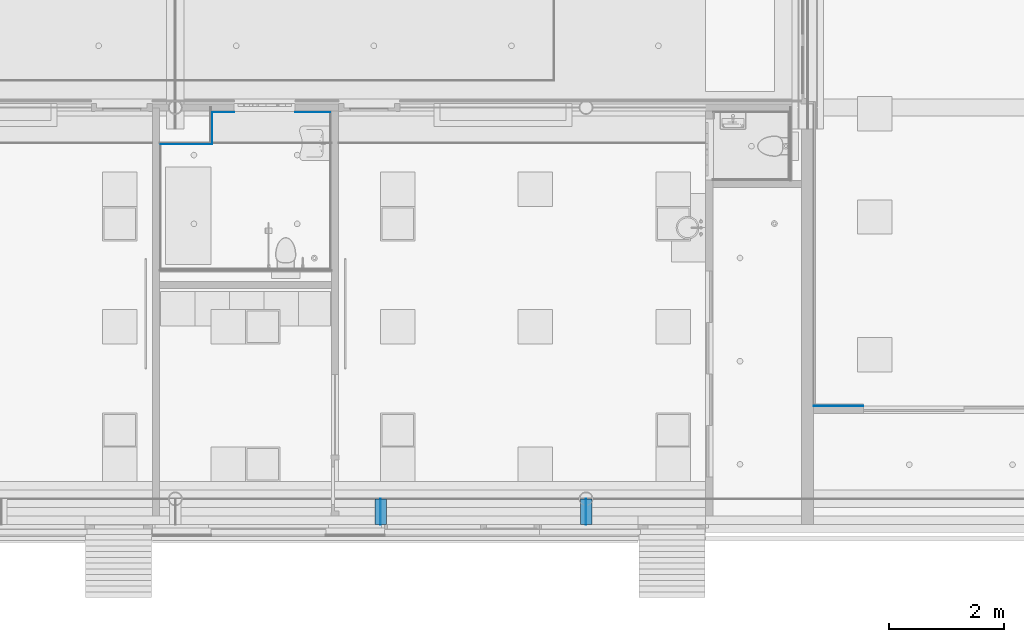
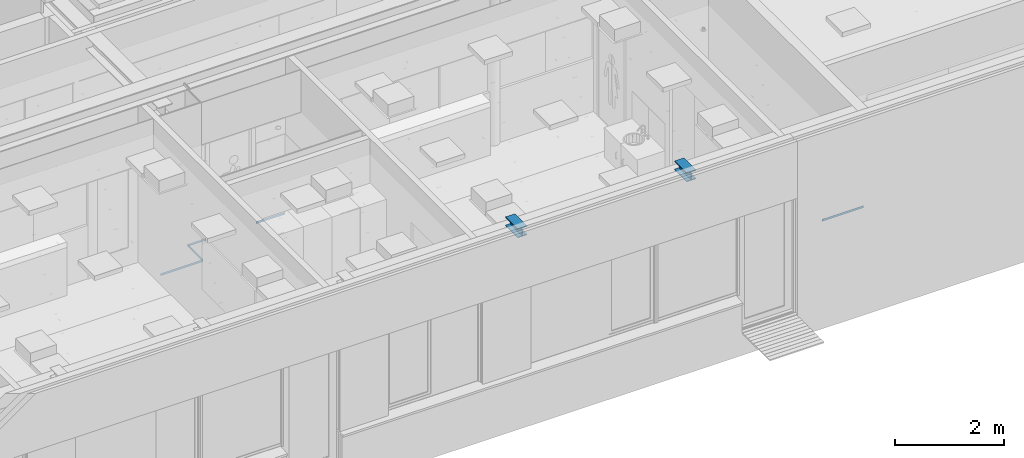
# One storey, part 128 of 347: 11 building element parts, 7 elements without a shape of their own.
"""IFC2X3 building model written with IfcOpenShell, lengths in millimetres."""

from ifc_helpers import new_model, entity, si_unit, converted_unit, derived_unit, money_unit, direction, frame, origin_with_axes, place, context, subcontext, project, spatial, faceted_brep, material, type_object, element, aggregate, save


model = new_model("IFC2X3")

# Units and contexts
model_context = context("Model", 3, precision=0.01, world=origin_with_axes(), true_north=direction((0.0, 1.0)))
plan_context = context("Plan", 3, precision=0.01, world=origin_with_axes(), true_north=direction((0.0, 1.0)))
body_context = subcontext(model_context, "Body", "Model", "MODEL_VIEW")
ifc_project = project(units=[si_unit("LENGTHUNIT", "METRE", prefix="MILLI"), si_unit("AREAUNIT", "SQUARE_METRE"), si_unit("VOLUMEUNIT", "CUBIC_METRE"), converted_unit("PLANEANGLEUNIT", "DEGREE", entity("IfcPlaneAngleMeasure", 0.0174532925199), si_unit("PLANEANGLEUNIT", "RADIAN"), dimensions=[0, 0, 0, 0, 0, 0, 0]), money_unit("EUR"), converted_unit("TIMEUNIT", "Year", entity("IfcTimeMeasure", 31556926.0), si_unit("TIMEUNIT", "SECOND"), dimensions=[0, 0, 1, 0, 0, 0, 0]), si_unit("MASSUNIT", "GRAM", prefix="KILO"), si_unit("THERMODYNAMICTEMPERATUREUNIT", "DEGREE_CELSIUS"), si_unit("LUMINOUSINTENSITYUNIT", "LUMEN"), si_unit("ENERGYUNIT", "JOULE", prefix="MEGA"), derived_unit("THERMALCONDUCTANCEUNIT", [(si_unit("POWERUNIT", "WATT"), 1), (si_unit("LENGTHUNIT", "METRE"), -1), (si_unit("THERMODYNAMICTEMPERATUREUNIT", "KELVIN"), -1)]), derived_unit("SPECIFICHEATCAPACITYUNIT", [(si_unit("ENERGYUNIT", "JOULE"), 1), (si_unit("MASSUNIT", "GRAM", prefix="KILO"), -1), (si_unit("THERMODYNAMICTEMPERATUREUNIT", "KELVIN"), -1)]), derived_unit("MASSDENSITYUNIT", [(si_unit("MASSUNIT", "GRAM", prefix="KILO"), 1), (si_unit("VOLUMEUNIT", "CUBIC_METRE"), -1)])], contexts=[model_context, plan_context])

# Site, building, storey
site_placement = place(None, origin_with_axes())
site = spatial("IfcSite", under=ifc_project, at=site_placement, Name="Site", CompositionType="ELEMENT")
building_placement = place(site_placement, origin_with_axes())
building = spatial("IfcBuilding", under=site, at=building_placement, Name="Naam gebouw", CompositionType="ELEMENT")
storey_placement = place(building_placement, origin_with_axes())
storey = spatial("IfcBuildingStorey", under=building, at=storey_placement, Name="begane grond", CompositionType="ELEMENT", Elevation=0.0)

# Beam, building element parts
beam_type = type_object("IfcBeamType", Name="28 HEB200 200 x 200", PredefinedType="BEAM")
beam_1_placement = place(storey_placement, frame((31737.5, 4850.0, 3560.0), z_axis=(0.0, 0.0, 1.0), x_axis=(1.0, 0.0, 0.0)))
beam_1 = element("IfcBeam", 1, at=beam_1_placement, inside=storey, type_object=beam_type, Name="28_Balk-x", ObjectType="BEAM")
ifc_material_1 = material(Name="Metaal - Staal C")
building_element_part_1_placement = place(beam_1_placement, origin_with_axes())
building_element_part_1 = element("IfcBuildingElementPart", 2, at=building_element_part_1_placement, material=ifc_material_1, Name="Metaal - Staal C", context=body_context, shape_type="Brep", body=[
    faceted_brep([(-100.0, 450.0, 185.0), (-4.5, 450.0, 185.0), (-4.5, 0.0, 185.0), (-100.0, 0.0, 185.0), (-100.0, 450.0, 200.0), (100.0, 450.0, 200.0), (100.0, 450.0, 185.0), (4.5, 450.0, 185.0), (4.5, 0.0, 185.0), (100.0, 0.0, 185.0), (100.0, 0.0, 200.0), (-100.0, 0.0, 200.0)], [[[0, 1, 2, 3]], [[0, 4, 5, 6, 7, 1]], [[1, 7, 8, 2]], [[3, 2, 8, 9, 10, 11]], [[4, 0, 3, 11]], [[5, 4, 11, 10]], [[6, 5, 10, 9]], [[7, 6, 9, 8]]]),
])
building_element_part_2_placement = place(beam_1_placement, origin_with_axes())
building_element_part_2 = element("IfcBuildingElementPart", 3, at=building_element_part_2_placement, material=ifc_material_1, Name="Metaal - Staal C", context=body_context, shape_type="Brep", body=[
    faceted_brep([(-100.0, 450.0, 15.0), (-100.0, 450.0, 0.0), (-100.0, 0.0, 0.0), (-100.0, 0.0, 15.0), (-4.5, 450.0, 15.0), (4.5, 450.0, 15.0), (100.0, 450.0, 15.0), (100.0, 450.0, 0.0), (100.0, 0.0, 0.0), (100.0, 0.0, 15.0), (4.5, 0.0, 15.0), (-4.5, 0.0, 15.0)], [[[0, 1, 2, 3]], [[0, 4, 5, 6, 7, 1]], [[1, 7, 8, 2]], [[3, 2, 8, 9, 10, 11]], [[4, 0, 3, 11]], [[5, 4, 11, 10]], [[6, 5, 10, 9]], [[7, 6, 9, 8]]]),
])
building_element_part_3_placement = place(beam_1_placement, origin_with_axes())
building_element_part_3 = element("IfcBuildingElementPart", 4, at=building_element_part_3_placement, material=ifc_material_1, Name="Metaal - Staal C", context=body_context, shape_type="Brep", body=[
    faceted_brep([(-4.5, 450.0, 15.0), (4.5, 450.0, 15.0), (4.5, 0.0, 15.0), (-4.5, 0.0, 15.0), (-4.5, 450.0, 185.0), (4.5, 450.0, 185.0), (4.5, 0.0, 185.0), (-4.5, 0.0, 185.0)], [[[0, 1, 2, 3]], [[0, 4, 5, 1]], [[1, 5, 6, 2]], [[3, 2, 6, 7]], [[4, 0, 3, 7]], [[5, 4, 7, 6]]]),
])
aggregate(beam_1, [building_element_part_1, building_element_part_2, building_element_part_3])

# Proxy, building element part
building_element_proxy_type_1 = type_object("IfcBuildingElementProxyType", Name="wandtegels 150x300 1800+ 10 x 1800", PredefinedType="NOTDEFINED")
proxy_1_placement = place(storey_placement, frame((25210.0000046, 11489.9999515, 0.0), z_axis=(0.0, 0.0, 1.0), x_axis=(-1.0, 0.0, 0.0)))
proxy_1 = element("IfcBuildingElementProxy", 5, at=proxy_1_placement, inside=storey, type_object=building_element_proxy_type_1, Name="42_58 wandtegels keramisch")
ifc_material_2 = material(Name="48 vloeivloer Bolidt")
building_element_part_4_placement = place(proxy_1_placement, origin_with_axes())
building_element_part_4 = element("IfcBuildingElementPart", 6, at=building_element_part_4_placement, material=ifc_material_2, Name="48 vloeivloer Bolidt", context=body_context, shape_type="Brep", body=[
    faceted_brep([(-7.99998912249, 10.0000069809, 49.9999904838), (-7.99998912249, 7.99998912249, 49.9999904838), (892.000016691, 7.99998912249, 49.9999904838), (892.000016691, 10.0000069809, 49.9999904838), (-7.99998912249, 7.99998912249, 0.0), (-7.99998912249, 10.0000069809, 0.0), (892.000016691, 7.99998912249, 0.0), (892.000016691, 10.0000069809, 0.0)], [[[0, 1, 2, 3]], [[4, 1, 0, 5]], [[1, 4, 6, 2]], [[7, 3, 2, 6]], [[5, 0, 3, 7]], [[4, 5, 7, 6]]]),
])
aggregate(proxy_1, [building_element_part_4])

proxy_2_placement = place(storey_placement, frame((25210.0000046, 12052.499988, 0.0), z_axis=(0.0, 0.0, 1.0), x_axis=(0.0, -1.0, 0.0)))
proxy_2 = element("IfcBuildingElementProxy", 7, at=proxy_2_placement, inside=storey, type_object=building_element_proxy_type_1, Name="42_57 wandtegels keramisch")
building_element_part_5_placement = place(proxy_2_placement, origin_with_axes())
building_element_part_5 = element("IfcBuildingElementPart", 8, at=building_element_part_5_placement, material=ifc_material_2, Name="48 vloeivloer Bolidt", context=body_context, shape_type="Brep", body=[
    faceted_brep([(10.0000069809, 10.0000069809, 0.0), (10.0000069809, 10.0000069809, 49.9999904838), (572.500035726, 10.0000069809, 49.9999904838), (572.500035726, 10.0000069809, 0.0), (10.0000069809, 7.99998912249, 49.9999904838), (10.0000069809, 7.99998912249, 0.0), (572.500035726, 7.99998912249, 49.9999904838), (572.500035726, 7.99998912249, 0.0)], [[[0, 1, 2, 3]], [[4, 1, 0, 5]], [[1, 4, 6, 2]], [[7, 3, 2, 6]], [[5, 0, 3, 7]], [[4, 5, 7, 6]]]),
])
aggregate(proxy_2, [building_element_part_5])

proxy_3_placement = place(storey_placement, frame((25600.0, 12052.499988, 0.0), z_axis=(0.0, 0.0, 1.0), x_axis=(-1.0, 0.0, 0.0)))
proxy_3 = element("IfcBuildingElementProxy", 9, at=proxy_3_placement, inside=storey, type_object=building_element_proxy_type_1, Name="42_56 wandtegels keramisch")
building_element_part_6_placement = place(proxy_3_placement, origin_with_axes())
building_element_part_6 = element("IfcBuildingElementPart", 10, at=building_element_part_6_placement, material=ifc_material_2, Name="48 vloeivloer Bolidt", context=body_context, shape_type="Brep", body=[
    faceted_brep([(382.000014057, 7.99998912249, 0.0), (382.000014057, 7.99998912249, 49.9999904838), (0.0, 7.99998912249, 49.9999904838), (0.0, 7.99998912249, 0.0), (382.000014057, 10.0000069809, 49.9999904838), (382.000014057, 10.0000069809, 0.0), (0.0, 10.0000069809, 49.9999904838), (0.0, 10.0000069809, 0.0)], [[[0, 1, 2, 3]], [[4, 1, 0, 5]], [[1, 4, 6, 2]], [[6, 7, 3, 2]], [[5, 0, 3, 7]], [[4, 5, 7, 6]]]),
])
aggregate(proxy_3, [building_element_part_6])

proxy_4_placement = place(storey_placement, frame((27290.0, 12052.499988, 0.0), z_axis=(0.0, 0.0, 1.0), x_axis=(-1.0, 0.0, 0.0)))
proxy_4 = element("IfcBuildingElementProxy", 11, at=proxy_4_placement, inside=storey, type_object=building_element_proxy_type_1, Name="42_62 wandtegels keramisch")
building_element_part_7_placement = place(proxy_4_placement, origin_with_axes())
building_element_part_7 = element("IfcBuildingElementPart", 12, at=building_element_part_7_placement, material=ifc_material_2, Name="48 vloeivloer Bolidt", context=body_context, shape_type="Brep", body=[
    faceted_brep([(10.0000069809, 10.0000069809, 49.9999904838), (10.0000069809, 7.99998912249, 49.9999904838), (626.0, 7.99998912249, 49.9999904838), (626.0, 10.0000069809, 49.9999904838), (10.0000069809, 7.99998912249, 0.0), (10.0000069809, 10.0000069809, 0.0), (626.0, 7.99998912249, 0.0), (626.0, 10.0000069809, 0.0)], [[[0, 1, 2, 3]], [[4, 1, 0, 5]], [[1, 4, 6, 2]], [[2, 6, 7, 3]], [[5, 0, 3, 7]], [[4, 5, 7, 6]]]),
])
aggregate(proxy_4, [building_element_part_7])

# Beam, building element parts
beam_2_placement = place(storey_placement, frame((28156.25, 4850.0000004, 3560.0), z_axis=(0.0, 0.0, 1.0), x_axis=(1.0, 0.0, 0.0)))
beam_2 = element("IfcBeam", 13, at=beam_2_placement, inside=storey, type_object=beam_type, Name="28_Balk-x", ObjectType="BEAM")
building_element_part_8_placement = place(beam_2_placement, origin_with_axes())
building_element_part_8 = element("IfcBuildingElementPart", 14, at=building_element_part_8_placement, material=ifc_material_1, Name="Metaal - Staal C", context=body_context, shape_type="Brep", body=[
    faceted_brep([(-100.0, 450.0, 185.0), (-4.5, 450.0, 185.0), (-4.5, 0.0, 185.0), (-100.0, 0.0, 185.0), (-100.0, 450.0, 200.0), (100.0, 450.0, 200.0), (100.0, 450.0, 185.0), (4.5, 450.0, 185.0), (4.5, 0.0, 185.0), (100.0, 0.0, 185.0), (100.0, 0.0, 200.0), (-100.0, 0.0, 200.0)], [[[0, 1, 2, 3]], [[0, 4, 5, 6, 7, 1]], [[1, 7, 8, 2]], [[3, 2, 8, 9, 10, 11]], [[4, 0, 3, 11]], [[5, 4, 11, 10]], [[6, 5, 10, 9]], [[7, 6, 9, 8]]]),
])
building_element_part_9_placement = place(beam_2_placement, origin_with_axes())
building_element_part_9 = element("IfcBuildingElementPart", 15, at=building_element_part_9_placement, material=ifc_material_1, Name="Metaal - Staal C", context=body_context, shape_type="Brep", body=[
    faceted_brep([(-100.0, 450.0, 15.0), (-100.0, 450.0, 0.0), (-100.0, 0.0, 0.0), (-100.0, 0.0, 15.0), (-4.5, 450.0, 15.0), (4.5, 450.0, 15.0), (100.0, 450.0, 15.0), (100.0, 450.0, 0.0), (100.0, 0.0, 0.0), (100.0, 0.0, 15.0), (4.5, 0.0, 15.0), (-4.5, 0.0, 15.0)], [[[0, 1, 2, 3]], [[0, 4, 5, 6, 7, 1]], [[1, 7, 8, 2]], [[3, 2, 8, 9, 10, 11]], [[4, 0, 3, 11]], [[5, 4, 11, 10]], [[6, 5, 10, 9]], [[7, 6, 9, 8]]]),
])
building_element_part_10_placement = place(beam_2_placement, origin_with_axes())
building_element_part_10 = element("IfcBuildingElementPart", 16, at=building_element_part_10_placement, material=ifc_material_1, Name="Metaal - Staal C", context=body_context, shape_type="Brep", body=[
    faceted_brep([(-4.5, 450.0, 15.0), (4.5, 450.0, 15.0), (4.5, 0.0, 15.0), (-4.5, 0.0, 15.0), (-4.5, 450.0, 185.0), (4.5, 450.0, 185.0), (4.5, 0.0, 185.0), (-4.5, 0.0, 185.0)], [[[0, 1, 2, 3]], [[0, 4, 5, 1]], [[1, 5, 6, 2]], [[3, 2, 6, 7]], [[4, 0, 3, 7]], [[5, 4, 7, 6]]]),
])
aggregate(beam_2, [building_element_part_8, building_element_part_9, building_element_part_10])

# Proxy, building element part
building_element_proxy_type_2 = type_object("IfcBuildingElementProxyType", Name="Viltonwand 2600+ 33 x 2600", PredefinedType="NOTDEFINED")
proxy_5_placement = place(storey_placement, frame((36575.0, 6915.00953644, 0.0), z_axis=(0.0, 0.0, 1.0), x_axis=(-1.0, 0.0, 0.0)))
proxy_5 = element("IfcBuildingElementProxy", 17, at=proxy_5_placement, inside=storey, type_object=building_element_proxy_type_2, Name="42_49 wandtegels keramisch")
ifc_material_3 = material(Name="Kunststof - massief")
building_element_part_11_placement = place(proxy_5_placement, origin_with_axes())
building_element_part_11 = element("IfcBuildingElementPart", 18, at=building_element_part_11_placement, material=ifc_material_3, Name="Kunststof - massief", context=body_context, shape_type="Brep", body=[
    faceted_brep([(870.00000596, -5.00000596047, 0.0), (870.00000596, -5.00000596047, 50.0000059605), (0.0, -5.00000596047, 50.0000059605), (0.0, -5.00000596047, 0.0), (870.00000596, 1.78814101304e-05, 0.0), (870.00000596, 1.78814101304e-05, 50.0000059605), (0.0, 1.78814101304e-05, 50.0000059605), (0.0, 1.78814101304e-05, 0.0)], [[[0, 1, 2, 3]], [[1, 0, 4, 5]], [[1, 5, 6, 2]], [[6, 7, 3, 2]], [[4, 0, 3, 7]], [[5, 4, 7, 6]]]),
])
aggregate(proxy_5, [building_element_part_11])

save(model, "model.ifc")
